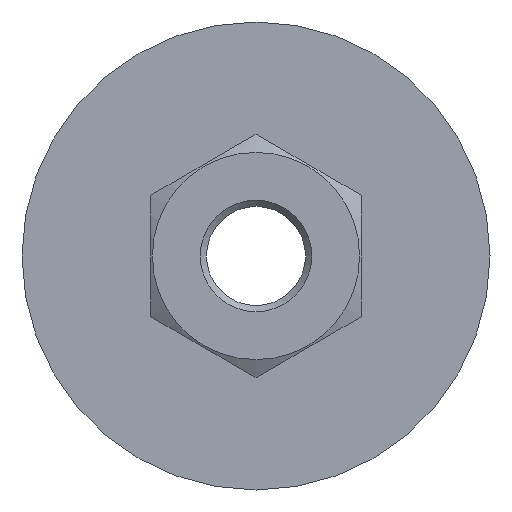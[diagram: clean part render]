
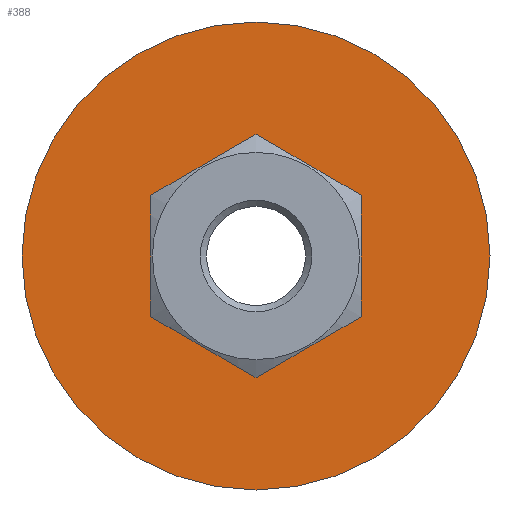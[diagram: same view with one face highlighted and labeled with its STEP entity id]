
A CAD part, left-side view. The second image highlights one B-rep face of the part: STEP entity #388.
In plain terms, the highlighted planar face has unit normal (1, 0, 0).
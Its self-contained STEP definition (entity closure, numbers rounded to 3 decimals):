
#54=PLANE('',#421);
#111=ORIENTED_EDGE('',*,*,#141,.T.);
#112=ORIENTED_EDGE('',*,*,#142,.F.);
#141=EDGE_CURVE('',#165,#165,#177,.T.);
#142=EDGE_CURVE('',#166,#166,#178,.T.);
#165=VERTEX_POINT('',#622);
#166=VERTEX_POINT('',#624);
#177=CIRCLE('',#422,18.887);
#178=CIRCLE('',#423,6.188);
#207=EDGE_LOOP('',(#111));
#208=EDGE_LOOP('',(#112));
#237=FACE_BOUND('',#207,.T.);
#238=FACE_BOUND('',#208,.T.);
#388=ADVANCED_FACE('',(#237,#238),#54,.T.);
#421=AXIS2_PLACEMENT_3D('',#620,#486,#487);
#422=AXIS2_PLACEMENT_3D('',#621,#488,#489);
#423=AXIS2_PLACEMENT_3D('',#623,#490,#491);
#486=DIRECTION('',(1.,0.,0.));
#487=DIRECTION('',(0.,0.,-1.));
#488=DIRECTION('',(1.,0.,0.));
#489=DIRECTION('',(0.,0.,-1.));
#490=DIRECTION('',(1.,0.,0.));
#491=DIRECTION('',(0.,0.,-1.));
#620=CARTESIAN_POINT('',(-10.,0.,6.188));
#621=CARTESIAN_POINT('',(-10.,0.,0.));
#622=CARTESIAN_POINT('',(-10.,0.,-18.887));
#623=CARTESIAN_POINT('',(-10.,0.,0.));
#624=CARTESIAN_POINT('',(-10.,0.,-6.188));
